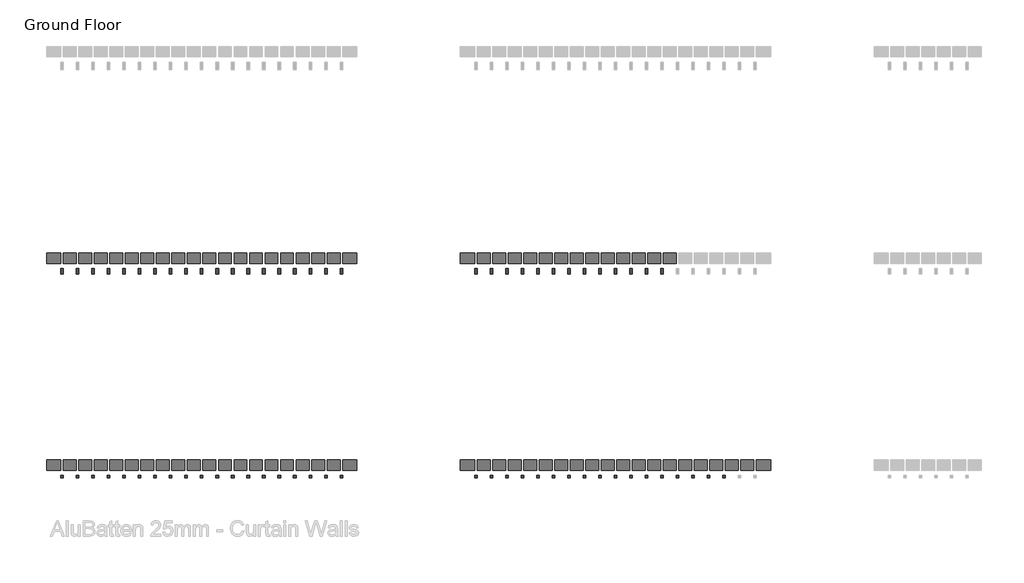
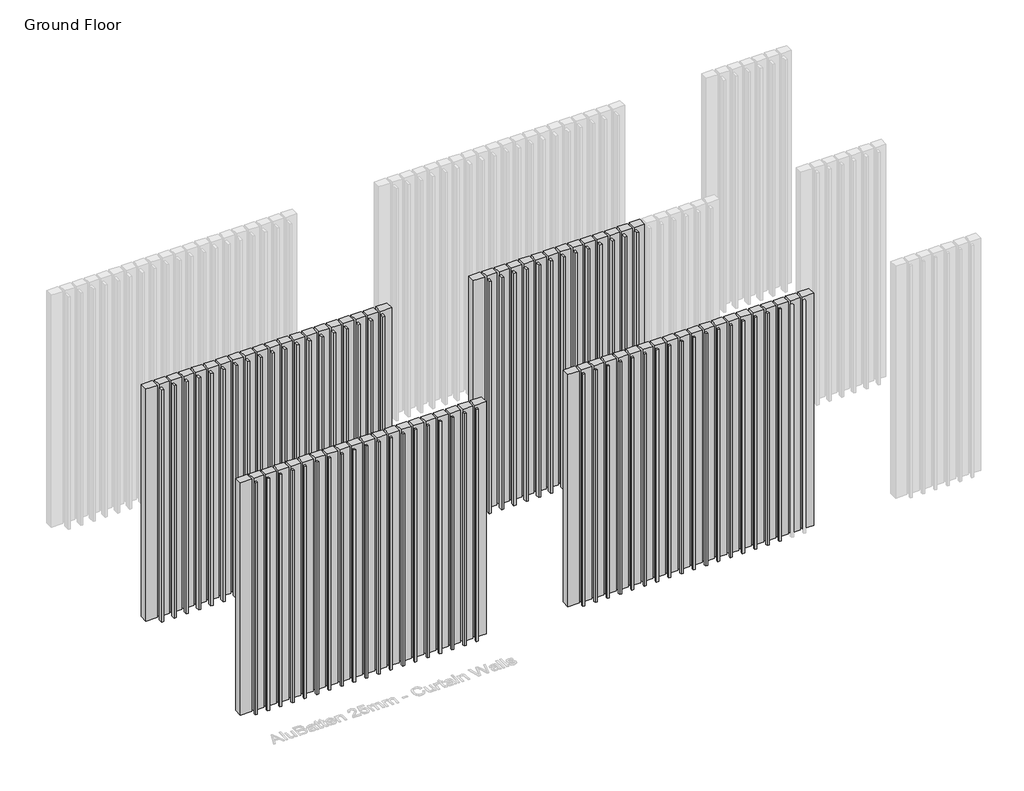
# One storey, part 1 of 350: 74 plates, 68 members.
"""IFC4 building model written with IfcOpenShell, lengths in millimetres."""

from ifc_helpers import new_model, si_unit, origin, place, context, project, spatial, transform, mapped, element, save
from components import rectangular_mullion_ec047115, rectangular_mullion_5535ef50, empty_system_panel_empty_db8e642d, empty_system_panel_empty_1b6afc67, empty_system_panel_empty_4d48d162

model = new_model("IFC4")

# Units and contexts
model_context = context("Model", 3, world=origin())
ifc_project = project(units=[si_unit("LENGTHUNIT", "METRE", prefix="MILLI")], contexts=[model_context])

# Site, building, storey
site = spatial("IfcSite", under=ifc_project)
building = spatial("IfcBuilding", under=site)
storey = spatial("IfcBuildingStorey", under=building, Name="Ground Floor", Elevation=0.0)

# Members
placement = place(None, origin())
rectangular_mullion_shape = rectangular_mullion_ec047115(model_context)
element("IfcMember", 1, ObjectType="Rectangular Mullion : Batten_Aluminium_Modinex_AluBatten_25x25_AfricanEbony", at=placement, inside=storey, context=model_context, shape_type="MappedRepresentation", body=[
    mapped(rectangular_mullion_shape, transform((2066.4361642, 4968.2978302, 0.0), x_axis=(1.0, 0.0, 0.0), y_axis=(0.0, -1.0, 0.0), z_axis=(0.0, 0.0, -1.0))),
])
element("IfcMember", 2, ObjectType="Rectangular Mullion : Batten_Aluminium_Modinex_AluBatten_25x25_AfricanEbony", at=placement, inside=storey, context=model_context, shape_type="MappedRepresentation", body=[
    mapped(rectangular_mullion_shape, transform((2216.4361642, 4968.2978302, 0.0), x_axis=(1.0, 0.0, 0.0), y_axis=(0.0, -1.0, 0.0), z_axis=(0.0, 0.0, -1.0))),
])
element("IfcMember", 3, ObjectType="Rectangular Mullion : Batten_Aluminium_Modinex_AluBatten_25x25_AfricanEbony", at=placement, inside=storey, context=model_context, shape_type="MappedRepresentation", body=[
    mapped(rectangular_mullion_shape, transform((2366.4361642, 4968.2978302, 0.0), x_axis=(1.0, 0.0, 0.0), y_axis=(0.0, -1.0, 0.0), z_axis=(0.0, 0.0, -1.0))),
])
element("IfcMember", 4, ObjectType="Rectangular Mullion : Batten_Aluminium_Modinex_AluBatten_25x25_AfricanEbony", at=placement, inside=storey, context=model_context, shape_type="MappedRepresentation", body=[
    mapped(rectangular_mullion_shape, transform((2516.4361642, 4968.2978302, 0.0), x_axis=(1.0, 0.0, 0.0), y_axis=(0.0, -1.0, 0.0), z_axis=(0.0, 0.0, -1.0))),
])
element("IfcMember", 5, ObjectType="Rectangular Mullion : Batten_Aluminium_Modinex_AluBatten_25x25_AfricanEbony", at=placement, inside=storey, context=model_context, shape_type="MappedRepresentation", body=[
    mapped(rectangular_mullion_shape, transform((2666.4361642, 4968.2978302, 0.0), x_axis=(1.0, 0.0, 0.0), y_axis=(0.0, -1.0, 0.0), z_axis=(0.0, 0.0, -1.0))),
])
element("IfcMember", 6, ObjectType="Rectangular Mullion : Batten_Aluminium_Modinex_AluBatten_25x25_AfricanEbony", at=placement, inside=storey, context=model_context, shape_type="MappedRepresentation", body=[
    mapped(rectangular_mullion_shape, transform((2816.4361642, 4968.2978302, 0.0), x_axis=(1.0, 0.0, 0.0), y_axis=(0.0, -1.0, 0.0), z_axis=(0.0, 0.0, -1.0))),
])
element("IfcMember", 7, ObjectType="Rectangular Mullion : Batten_Aluminium_Modinex_AluBatten_25x25_AfricanEbony", at=placement, inside=storey, context=model_context, shape_type="MappedRepresentation", body=[
    mapped(rectangular_mullion_shape, transform((2966.4361642, 4968.2978302, 0.0), x_axis=(1.0, 0.0, 0.0), y_axis=(0.0, -1.0, 0.0), z_axis=(0.0, 0.0, -1.0))),
])
element("IfcMember", 8, ObjectType="Rectangular Mullion : Batten_Aluminium_Modinex_AluBatten_25x25_AfricanEbony", at=placement, inside=storey, context=model_context, shape_type="MappedRepresentation", body=[
    mapped(rectangular_mullion_shape, transform((3116.4361642, 4968.2978302, 0.0), x_axis=(1.0, 0.0, 0.0), y_axis=(0.0, -1.0, 0.0), z_axis=(0.0, 0.0, -1.0))),
])
element("IfcMember", 9, ObjectType="Rectangular Mullion : Batten_Aluminium_Modinex_AluBatten_25x25_AfricanEbony", at=placement, inside=storey, context=model_context, shape_type="MappedRepresentation", body=[
    mapped(rectangular_mullion_shape, transform((3266.4361642, 4968.2978302, 0.0), x_axis=(1.0, 0.0, 0.0), y_axis=(0.0, -1.0, 0.0), z_axis=(0.0, 0.0, -1.0))),
])
element("IfcMember", 10, ObjectType="Rectangular Mullion : Batten_Aluminium_Modinex_AluBatten_25x25_AfricanEbony", at=placement, inside=storey, context=model_context, shape_type="MappedRepresentation", body=[
    mapped(rectangular_mullion_shape, transform((3416.4361642, 4968.2978302, 0.0), x_axis=(1.0, 0.0, 0.0), y_axis=(0.0, -1.0, 0.0), z_axis=(0.0, 0.0, -1.0))),
])
element("IfcMember", 11, ObjectType="Rectangular Mullion : Batten_Aluminium_Modinex_AluBatten_25x25_AfricanEbony", at=placement, inside=storey, context=model_context, shape_type="MappedRepresentation", body=[
    mapped(rectangular_mullion_shape, transform((3566.4361642, 4968.2978302, 0.0), x_axis=(1.0, 0.0, 0.0), y_axis=(0.0, -1.0, 0.0), z_axis=(0.0, 0.0, -1.0))),
])
element("IfcMember", 12, ObjectType="Rectangular Mullion : Batten_Aluminium_Modinex_AluBatten_25x25_AfricanEbony", at=placement, inside=storey, context=model_context, shape_type="MappedRepresentation", body=[
    mapped(rectangular_mullion_shape, transform((3716.4361642, 4968.2978302, 0.0), x_axis=(1.0, 0.0, 0.0), y_axis=(0.0, -1.0, 0.0), z_axis=(0.0, 0.0, -1.0))),
])
element("IfcMember", 13, ObjectType="Rectangular Mullion : Batten_Aluminium_Modinex_AluBatten_25x25_AfricanEbony", at=placement, inside=storey, context=model_context, shape_type="MappedRepresentation", body=[
    mapped(rectangular_mullion_shape, transform((3866.4361642, 4968.2978302, 0.0), x_axis=(1.0, 0.0, 0.0), y_axis=(0.0, -1.0, 0.0), z_axis=(0.0, 0.0, -1.0))),
])
element("IfcMember", 14, ObjectType="Rectangular Mullion : Batten_Aluminium_Modinex_AluBatten_25x25_AfricanEbony", at=placement, inside=storey, context=model_context, shape_type="MappedRepresentation", body=[
    mapped(rectangular_mullion_shape, transform((4016.4361642, 4968.2978302, 0.0), x_axis=(1.0, 0.0, 0.0), y_axis=(0.0, -1.0, 0.0), z_axis=(0.0, 0.0, -1.0))),
])
element("IfcMember", 15, ObjectType="Rectangular Mullion : Batten_Aluminium_Modinex_AluBatten_25x25_AfricanEbony", at=placement, inside=storey, context=model_context, shape_type="MappedRepresentation", body=[
    mapped(rectangular_mullion_shape, transform((4166.4361642, 4968.2978302, 0.0), x_axis=(1.0, 0.0, 0.0), y_axis=(0.0, -1.0, 0.0), z_axis=(0.0, 0.0, -1.0))),
])
element("IfcMember", 16, ObjectType="Rectangular Mullion : Batten_Aluminium_Modinex_AluBatten_25x25_AfricanEbony", at=placement, inside=storey, context=model_context, shape_type="MappedRepresentation", body=[
    mapped(rectangular_mullion_shape, transform((4316.4361642, 4968.2978302, 0.0), x_axis=(1.0, 0.0, 0.0), y_axis=(0.0, -1.0, 0.0), z_axis=(0.0, 0.0, -1.0))),
])
element("IfcMember", 17, ObjectType="Rectangular Mullion : Batten_Aluminium_Modinex_AluBatten_25x25_AfricanEbony", at=placement, inside=storey, context=model_context, shape_type="MappedRepresentation", body=[
    mapped(rectangular_mullion_shape, transform((4466.4361642, 4968.2978302, 0.0), x_axis=(1.0, 0.0, 0.0), y_axis=(0.0, -1.0, 0.0), z_axis=(0.0, 0.0, -1.0))),
])
element("IfcMember", 18, ObjectType="Rectangular Mullion : Batten_Aluminium_Modinex_AluBatten_25x25_AfricanEbony", at=placement, inside=storey, context=model_context, shape_type="MappedRepresentation", body=[
    mapped(rectangular_mullion_shape, transform((4616.4361642, 4968.2978302, 0.0), x_axis=(1.0, 0.0, 0.0), y_axis=(0.0, -1.0, 0.0), z_axis=(0.0, 0.0, -1.0))),
])
element("IfcMember", 19, ObjectType="Rectangular Mullion : Batten_Aluminium_Modinex_AluBatten_25x25_AfricanEbony", at=placement, inside=storey, context=model_context, shape_type="MappedRepresentation", body=[
    mapped(rectangular_mullion_shape, transform((4766.4361642, 4968.2978302, 0.0), x_axis=(1.0, 0.0, 0.0), y_axis=(0.0, -1.0, 0.0), z_axis=(0.0, 0.0, -1.0))),
])
rectangular_mullion_2_shape = rectangular_mullion_5535ef50(model_context)
element("IfcMember", 20, ObjectType="Rectangular Mullion : Batten_Aluminium_Modinex_AluBatten_25x50_Cedar", at=placement, inside=storey, context=model_context, shape_type="MappedRepresentation", body=[
    mapped(rectangular_mullion_2_shape, transform((6066.4361642, 6968.2978302, 0.0), x_axis=(1.0, 0.0, 0.0), y_axis=(0.0, -1.0, 0.0), z_axis=(0.0, 0.0, -1.0))),
])
element("IfcMember", 21, ObjectType="Rectangular Mullion : Batten_Aluminium_Modinex_AluBatten_25x50_Cedar", at=placement, inside=storey, context=model_context, shape_type="MappedRepresentation", body=[
    mapped(rectangular_mullion_2_shape, transform((6216.4361642, 6968.2978302, 0.0), x_axis=(1.0, 0.0, 0.0), y_axis=(0.0, -1.0, 0.0), z_axis=(0.0, 0.0, -1.0))),
])
element("IfcMember", 22, ObjectType="Rectangular Mullion : Batten_Aluminium_Modinex_AluBatten_25x50_Cedar", at=placement, inside=storey, context=model_context, shape_type="MappedRepresentation", body=[
    mapped(rectangular_mullion_2_shape, transform((6366.4361642, 6968.2978302, 0.0), x_axis=(1.0, 0.0, 0.0), y_axis=(0.0, -1.0, 0.0), z_axis=(0.0, 0.0, -1.0))),
])
element("IfcMember", 23, ObjectType="Rectangular Mullion : Batten_Aluminium_Modinex_AluBatten_25x50_Cedar", at=placement, inside=storey, context=model_context, shape_type="MappedRepresentation", body=[
    mapped(rectangular_mullion_2_shape, transform((6516.4361642, 6968.2978302, 0.0), x_axis=(1.0, 0.0, 0.0), y_axis=(0.0, -1.0, 0.0), z_axis=(0.0, 0.0, -1.0))),
])
element("IfcMember", 24, ObjectType="Rectangular Mullion : Batten_Aluminium_Modinex_AluBatten_25x50_Cedar", at=placement, inside=storey, context=model_context, shape_type="MappedRepresentation", body=[
    mapped(rectangular_mullion_2_shape, transform((6666.4361642, 6968.2978302, 0.0), x_axis=(1.0, 0.0, 0.0), y_axis=(0.0, -1.0, 0.0), z_axis=(0.0, 0.0, -1.0))),
])
element("IfcMember", 25, ObjectType="Rectangular Mullion : Batten_Aluminium_Modinex_AluBatten_25x50_Cedar", at=placement, inside=storey, context=model_context, shape_type="MappedRepresentation", body=[
    mapped(rectangular_mullion_2_shape, transform((6816.4361642, 6968.2978302, 0.0), x_axis=(1.0, 0.0, 0.0), y_axis=(0.0, -1.0, 0.0), z_axis=(0.0, 0.0, -1.0))),
])
element("IfcMember", 26, ObjectType="Rectangular Mullion : Batten_Aluminium_Modinex_AluBatten_25x50_Cedar", at=placement, inside=storey, context=model_context, shape_type="MappedRepresentation", body=[
    mapped(rectangular_mullion_2_shape, transform((6966.4361642, 6968.2978302, 0.0), x_axis=(1.0, 0.0, 0.0), y_axis=(0.0, -1.0, 0.0), z_axis=(0.0, 0.0, -1.0))),
])
element("IfcMember", 27, ObjectType="Rectangular Mullion : Batten_Aluminium_Modinex_AluBatten_25x50_Cedar", at=placement, inside=storey, context=model_context, shape_type="MappedRepresentation", body=[
    mapped(rectangular_mullion_2_shape, transform((7116.4361642, 6968.2978302, 0.0), x_axis=(1.0, 0.0, 0.0), y_axis=(0.0, -1.0, 0.0), z_axis=(0.0, 0.0, -1.0))),
])
element("IfcMember", 28, ObjectType="Rectangular Mullion : Batten_Aluminium_Modinex_AluBatten_25x50_Cedar", at=placement, inside=storey, context=model_context, shape_type="MappedRepresentation", body=[
    mapped(rectangular_mullion_2_shape, transform((7266.4361642, 6968.2978302, 0.0), x_axis=(1.0, 0.0, 0.0), y_axis=(0.0, -1.0, 0.0), z_axis=(0.0, 0.0, -1.0))),
])
element("IfcMember", 29, ObjectType="Rectangular Mullion : Batten_Aluminium_Modinex_AluBatten_25x50_Cedar", at=placement, inside=storey, context=model_context, shape_type="MappedRepresentation", body=[
    mapped(rectangular_mullion_2_shape, transform((7416.4361642, 6968.2978302, 0.0), x_axis=(1.0, 0.0, 0.0), y_axis=(0.0, -1.0, 0.0), z_axis=(0.0, 0.0, -1.0))),
])
element("IfcMember", 30, ObjectType="Rectangular Mullion : Batten_Aluminium_Modinex_AluBatten_25x50_Cedar", at=placement, inside=storey, context=model_context, shape_type="MappedRepresentation", body=[
    mapped(rectangular_mullion_2_shape, transform((7566.4361642, 6968.2978302, 0.0), x_axis=(1.0, 0.0, 0.0), y_axis=(0.0, -1.0, 0.0), z_axis=(0.0, 0.0, -1.0))),
])
element("IfcMember", 31, ObjectType="Rectangular Mullion : Batten_Aluminium_Modinex_AluBatten_25x50_Cedar", at=placement, inside=storey, context=model_context, shape_type="MappedRepresentation", body=[
    mapped(rectangular_mullion_2_shape, transform((7716.4361642, 6968.2978302, 0.0), x_axis=(1.0, 0.0, 0.0), y_axis=(0.0, -1.0, 0.0), z_axis=(0.0, 0.0, -1.0))),
])
element("IfcMember", 32, ObjectType="Rectangular Mullion : Batten_Aluminium_Modinex_AluBatten_25x50_Cedar", at=placement, inside=storey, context=model_context, shape_type="MappedRepresentation", body=[
    mapped(rectangular_mullion_2_shape, transform((7866.4361642, 6968.2978302, 0.0), x_axis=(1.0, 0.0, 0.0), y_axis=(0.0, -1.0, 0.0), z_axis=(0.0, 0.0, -1.0))),
])
element("IfcMember", 33, ObjectType="Rectangular Mullion : Batten_Aluminium_Modinex_AluBatten_25x25_Cedar", at=placement, inside=storey, context=model_context, shape_type="MappedRepresentation", body=[
    mapped(rectangular_mullion_shape, transform((6066.4361642, 4968.2978302, 0.0), x_axis=(1.0, 0.0, 0.0), y_axis=(0.0, -1.0, 0.0), z_axis=(0.0, 0.0, -1.0))),
])
element("IfcMember", 34, ObjectType="Rectangular Mullion : Batten_Aluminium_Modinex_AluBatten_25x25_Cedar", at=placement, inside=storey, context=model_context, shape_type="MappedRepresentation", body=[
    mapped(rectangular_mullion_shape, transform((6216.4361642, 4968.2978302, 0.0), x_axis=(1.0, 0.0, 0.0), y_axis=(0.0, -1.0, 0.0), z_axis=(0.0, 0.0, -1.0))),
])
element("IfcMember", 35, ObjectType="Rectangular Mullion : Batten_Aluminium_Modinex_AluBatten_25x25_Cedar", at=placement, inside=storey, context=model_context, shape_type="MappedRepresentation", body=[
    mapped(rectangular_mullion_shape, transform((6366.4361642, 4968.2978302, 0.0), x_axis=(1.0, 0.0, 0.0), y_axis=(0.0, -1.0, 0.0), z_axis=(0.0, 0.0, -1.0))),
])
element("IfcMember", 36, ObjectType="Rectangular Mullion : Batten_Aluminium_Modinex_AluBatten_25x25_Cedar", at=placement, inside=storey, context=model_context, shape_type="MappedRepresentation", body=[
    mapped(rectangular_mullion_shape, transform((6516.4361642, 4968.2978302, 0.0), x_axis=(1.0, 0.0, 0.0), y_axis=(0.0, -1.0, 0.0), z_axis=(0.0, 0.0, -1.0))),
])
element("IfcMember", 37, ObjectType="Rectangular Mullion : Batten_Aluminium_Modinex_AluBatten_25x25_Cedar", at=placement, inside=storey, context=model_context, shape_type="MappedRepresentation", body=[
    mapped(rectangular_mullion_shape, transform((6666.4361642, 4968.2978302, 0.0), x_axis=(1.0, 0.0, 0.0), y_axis=(0.0, -1.0, 0.0), z_axis=(0.0, 0.0, -1.0))),
])
element("IfcMember", 38, ObjectType="Rectangular Mullion : Batten_Aluminium_Modinex_AluBatten_25x25_Cedar", at=placement, inside=storey, context=model_context, shape_type="MappedRepresentation", body=[
    mapped(rectangular_mullion_shape, transform((6816.4361642, 4968.2978302, 0.0), x_axis=(1.0, 0.0, 0.0), y_axis=(0.0, -1.0, 0.0), z_axis=(0.0, 0.0, -1.0))),
])
element("IfcMember", 39, ObjectType="Rectangular Mullion : Batten_Aluminium_Modinex_AluBatten_25x25_Cedar", at=placement, inside=storey, context=model_context, shape_type="MappedRepresentation", body=[
    mapped(rectangular_mullion_shape, transform((6966.4361642, 4968.2978302, 0.0), x_axis=(1.0, 0.0, 0.0), y_axis=(0.0, -1.0, 0.0), z_axis=(0.0, 0.0, -1.0))),
])
element("IfcMember", 40, ObjectType="Rectangular Mullion : Batten_Aluminium_Modinex_AluBatten_25x25_Cedar", at=placement, inside=storey, context=model_context, shape_type="MappedRepresentation", body=[
    mapped(rectangular_mullion_shape, transform((7116.4361642, 4968.2978302, 0.0), x_axis=(1.0, 0.0, 0.0), y_axis=(0.0, -1.0, 0.0), z_axis=(0.0, 0.0, -1.0))),
])
element("IfcMember", 41, ObjectType="Rectangular Mullion : Batten_Aluminium_Modinex_AluBatten_25x25_Cedar", at=placement, inside=storey, context=model_context, shape_type="MappedRepresentation", body=[
    mapped(rectangular_mullion_shape, transform((7266.4361642, 4968.2978302, 0.0), x_axis=(1.0, 0.0, 0.0), y_axis=(0.0, -1.0, 0.0), z_axis=(0.0, 0.0, -1.0))),
])
element("IfcMember", 42, ObjectType="Rectangular Mullion : Batten_Aluminium_Modinex_AluBatten_25x25_Cedar", at=placement, inside=storey, context=model_context, shape_type="MappedRepresentation", body=[
    mapped(rectangular_mullion_shape, transform((7416.4361642, 4968.2978302, 0.0), x_axis=(1.0, 0.0, 0.0), y_axis=(0.0, -1.0, 0.0), z_axis=(0.0, 0.0, -1.0))),
])
element("IfcMember", 43, ObjectType="Rectangular Mullion : Batten_Aluminium_Modinex_AluBatten_25x25_Cedar", at=placement, inside=storey, context=model_context, shape_type="MappedRepresentation", body=[
    mapped(rectangular_mullion_shape, transform((7566.4361642, 4968.2978302, 0.0), x_axis=(1.0, 0.0, 0.0), y_axis=(0.0, -1.0, 0.0), z_axis=(0.0, 0.0, -1.0))),
])
element("IfcMember", 44, ObjectType="Rectangular Mullion : Batten_Aluminium_Modinex_AluBatten_25x25_Cedar", at=placement, inside=storey, context=model_context, shape_type="MappedRepresentation", body=[
    mapped(rectangular_mullion_shape, transform((7716.4361642, 4968.2978302, 0.0), x_axis=(1.0, 0.0, 0.0), y_axis=(0.0, -1.0, 0.0), z_axis=(0.0, 0.0, -1.0))),
])
element("IfcMember", 45, ObjectType="Rectangular Mullion : Batten_Aluminium_Modinex_AluBatten_25x25_Cedar", at=placement, inside=storey, context=model_context, shape_type="MappedRepresentation", body=[
    mapped(rectangular_mullion_shape, transform((7866.4361642, 4968.2978302, 0.0), x_axis=(1.0, 0.0, 0.0), y_axis=(0.0, -1.0, 0.0), z_axis=(0.0, 0.0, -1.0))),
])
element("IfcMember", 46, ObjectType="Rectangular Mullion : Batten_Aluminium_Modinex_AluBatten_25x25_Cedar", at=placement, inside=storey, context=model_context, shape_type="MappedRepresentation", body=[
    mapped(rectangular_mullion_shape, transform((8016.4361642, 4968.2978302, 0.0), x_axis=(1.0, 0.0, 0.0), y_axis=(0.0, -1.0, 0.0), z_axis=(0.0, 0.0, -1.0))),
])
element("IfcMember", 47, ObjectType="Rectangular Mullion : Batten_Aluminium_Modinex_AluBatten_25x25_Cedar", at=placement, inside=storey, context=model_context, shape_type="MappedRepresentation", body=[
    mapped(rectangular_mullion_shape, transform((8166.4361642, 4968.2978302, 0.0), x_axis=(1.0, 0.0, 0.0), y_axis=(0.0, -1.0, 0.0), z_axis=(0.0, 0.0, -1.0))),
])
element("IfcMember", 48, ObjectType="Rectangular Mullion : Batten_Aluminium_Modinex_AluBatten_25x25_Cedar", at=placement, inside=storey, context=model_context, shape_type="MappedRepresentation", body=[
    mapped(rectangular_mullion_shape, transform((8316.4361642, 4968.2978302, 0.0), x_axis=(1.0, 0.0, 0.0), y_axis=(0.0, -1.0, 0.0), z_axis=(0.0, 0.0, -1.0))),
])
element("IfcMember", 49, ObjectType="Rectangular Mullion : Batten_Aluminium_Modinex_AluBatten_25x25_Cedar", at=placement, inside=storey, context=model_context, shape_type="MappedRepresentation", body=[
    mapped(rectangular_mullion_shape, transform((8466.4361642, 4968.2978302, 0.0), x_axis=(1.0, 0.0, 0.0), y_axis=(0.0, -1.0, 0.0), z_axis=(0.0, 0.0, -1.0))),
])
element("IfcMember", 50, ObjectType="Rectangular Mullion : Batten_Aluminium_Modinex_AluBatten_25x50_AfricanEbony", at=placement, inside=storey, context=model_context, shape_type="MappedRepresentation", body=[
    mapped(rectangular_mullion_2_shape, transform((2066.4361642, 6968.2978302, 0.0), x_axis=(1.0, 0.0, 0.0), y_axis=(0.0, -1.0, 0.0), z_axis=(0.0, 0.0, -1.0))),
])
element("IfcMember", 51, ObjectType="Rectangular Mullion : Batten_Aluminium_Modinex_AluBatten_25x50_AfricanEbony", at=placement, inside=storey, context=model_context, shape_type="MappedRepresentation", body=[
    mapped(rectangular_mullion_2_shape, transform((2216.4361642, 6968.2978302, 0.0), x_axis=(1.0, 0.0, 0.0), y_axis=(0.0, -1.0, 0.0), z_axis=(0.0, 0.0, -1.0))),
])
element("IfcMember", 52, ObjectType="Rectangular Mullion : Batten_Aluminium_Modinex_AluBatten_25x50_AfricanEbony", at=placement, inside=storey, context=model_context, shape_type="MappedRepresentation", body=[
    mapped(rectangular_mullion_2_shape, transform((2366.4361642, 6968.2978302, 0.0), x_axis=(1.0, 0.0, 0.0), y_axis=(0.0, -1.0, 0.0), z_axis=(0.0, 0.0, -1.0))),
])
element("IfcMember", 53, ObjectType="Rectangular Mullion : Batten_Aluminium_Modinex_AluBatten_25x50_AfricanEbony", at=placement, inside=storey, context=model_context, shape_type="MappedRepresentation", body=[
    mapped(rectangular_mullion_2_shape, transform((2516.4361642, 6968.2978302, 0.0), x_axis=(1.0, 0.0, 0.0), y_axis=(0.0, -1.0, 0.0), z_axis=(0.0, 0.0, -1.0))),
])
element("IfcMember", 54, ObjectType="Rectangular Mullion : Batten_Aluminium_Modinex_AluBatten_25x50_AfricanEbony", at=placement, inside=storey, context=model_context, shape_type="MappedRepresentation", body=[
    mapped(rectangular_mullion_2_shape, transform((2666.4361642, 6968.2978302, 0.0), x_axis=(1.0, 0.0, 0.0), y_axis=(0.0, -1.0, 0.0), z_axis=(0.0, 0.0, -1.0))),
])
element("IfcMember", 55, ObjectType="Rectangular Mullion : Batten_Aluminium_Modinex_AluBatten_25x50_AfricanEbony", at=placement, inside=storey, context=model_context, shape_type="MappedRepresentation", body=[
    mapped(rectangular_mullion_2_shape, transform((2816.4361642, 6968.2978302, 0.0), x_axis=(1.0, 0.0, 0.0), y_axis=(0.0, -1.0, 0.0), z_axis=(0.0, 0.0, -1.0))),
])
element("IfcMember", 56, ObjectType="Rectangular Mullion : Batten_Aluminium_Modinex_AluBatten_25x50_AfricanEbony", at=placement, inside=storey, context=model_context, shape_type="MappedRepresentation", body=[
    mapped(rectangular_mullion_2_shape, transform((2966.4361642, 6968.2978302, 0.0), x_axis=(1.0, 0.0, 0.0), y_axis=(0.0, -1.0, 0.0), z_axis=(0.0, 0.0, -1.0))),
])
element("IfcMember", 57, ObjectType="Rectangular Mullion : Batten_Aluminium_Modinex_AluBatten_25x50_AfricanEbony", at=placement, inside=storey, context=model_context, shape_type="MappedRepresentation", body=[
    mapped(rectangular_mullion_2_shape, transform((3116.4361642, 6968.2978302, 0.0), x_axis=(1.0, 0.0, 0.0), y_axis=(0.0, -1.0, 0.0), z_axis=(0.0, 0.0, -1.0))),
])
element("IfcMember", 58, ObjectType="Rectangular Mullion : Batten_Aluminium_Modinex_AluBatten_25x50_AfricanEbony", at=placement, inside=storey, context=model_context, shape_type="MappedRepresentation", body=[
    mapped(rectangular_mullion_2_shape, transform((3266.4361642, 6968.2978302, 0.0), x_axis=(1.0, 0.0, 0.0), y_axis=(0.0, -1.0, 0.0), z_axis=(0.0, 0.0, -1.0))),
])
element("IfcMember", 59, ObjectType="Rectangular Mullion : Batten_Aluminium_Modinex_AluBatten_25x50_AfricanEbony", at=placement, inside=storey, context=model_context, shape_type="MappedRepresentation", body=[
    mapped(rectangular_mullion_2_shape, transform((3416.4361642, 6968.2978302, 0.0), x_axis=(1.0, 0.0, 0.0), y_axis=(0.0, -1.0, 0.0), z_axis=(0.0, 0.0, -1.0))),
])
element("IfcMember", 60, ObjectType="Rectangular Mullion : Batten_Aluminium_Modinex_AluBatten_25x50_AfricanEbony", at=placement, inside=storey, context=model_context, shape_type="MappedRepresentation", body=[
    mapped(rectangular_mullion_2_shape, transform((3566.4361642, 6968.2978302, 0.0), x_axis=(1.0, 0.0, 0.0), y_axis=(0.0, -1.0, 0.0), z_axis=(0.0, 0.0, -1.0))),
])
element("IfcMember", 61, ObjectType="Rectangular Mullion : Batten_Aluminium_Modinex_AluBatten_25x50_AfricanEbony", at=placement, inside=storey, context=model_context, shape_type="MappedRepresentation", body=[
    mapped(rectangular_mullion_2_shape, transform((3716.4361642, 6968.2978302, 0.0), x_axis=(1.0, 0.0, 0.0), y_axis=(0.0, -1.0, 0.0), z_axis=(0.0, 0.0, -1.0))),
])
element("IfcMember", 62, ObjectType="Rectangular Mullion : Batten_Aluminium_Modinex_AluBatten_25x50_AfricanEbony", at=placement, inside=storey, context=model_context, shape_type="MappedRepresentation", body=[
    mapped(rectangular_mullion_2_shape, transform((3866.4361642, 6968.2978302, 0.0), x_axis=(1.0, 0.0, 0.0), y_axis=(0.0, -1.0, 0.0), z_axis=(0.0, 0.0, -1.0))),
])
element("IfcMember", 63, ObjectType="Rectangular Mullion : Batten_Aluminium_Modinex_AluBatten_25x50_AfricanEbony", at=placement, inside=storey, context=model_context, shape_type="MappedRepresentation", body=[
    mapped(rectangular_mullion_2_shape, transform((4016.4361642, 6968.2978302, 0.0), x_axis=(1.0, 0.0, 0.0), y_axis=(0.0, -1.0, 0.0), z_axis=(0.0, 0.0, -1.0))),
])
element("IfcMember", 64, ObjectType="Rectangular Mullion : Batten_Aluminium_Modinex_AluBatten_25x50_AfricanEbony", at=placement, inside=storey, context=model_context, shape_type="MappedRepresentation", body=[
    mapped(rectangular_mullion_2_shape, transform((4166.4361642, 6968.2978302, 0.0), x_axis=(1.0, 0.0, 0.0), y_axis=(0.0, -1.0, 0.0), z_axis=(0.0, 0.0, -1.0))),
])
element("IfcMember", 65, ObjectType="Rectangular Mullion : Batten_Aluminium_Modinex_AluBatten_25x50_AfricanEbony", at=placement, inside=storey, context=model_context, shape_type="MappedRepresentation", body=[
    mapped(rectangular_mullion_2_shape, transform((4316.4361642, 6968.2978302, 0.0), x_axis=(1.0, 0.0, 0.0), y_axis=(0.0, -1.0, 0.0), z_axis=(0.0, 0.0, -1.0))),
])
element("IfcMember", 66, ObjectType="Rectangular Mullion : Batten_Aluminium_Modinex_AluBatten_25x50_AfricanEbony", at=placement, inside=storey, context=model_context, shape_type="MappedRepresentation", body=[
    mapped(rectangular_mullion_2_shape, transform((4466.4361642, 6968.2978302, 0.0), x_axis=(1.0, 0.0, 0.0), y_axis=(0.0, -1.0, 0.0), z_axis=(0.0, 0.0, -1.0))),
])
element("IfcMember", 67, ObjectType="Rectangular Mullion : Batten_Aluminium_Modinex_AluBatten_25x50_AfricanEbony", at=placement, inside=storey, context=model_context, shape_type="MappedRepresentation", body=[
    mapped(rectangular_mullion_2_shape, transform((4616.4361642, 6968.2978302, 0.0), x_axis=(1.0, 0.0, 0.0), y_axis=(0.0, -1.0, 0.0), z_axis=(0.0, 0.0, -1.0))),
])
element("IfcMember", 68, ObjectType="Rectangular Mullion : Batten_Aluminium_Modinex_AluBatten_25x50_AfricanEbony", at=placement, inside=storey, context=model_context, shape_type="MappedRepresentation", body=[
    mapped(rectangular_mullion_2_shape, transform((4766.4361642, 6968.2978302, 0.0), x_axis=(1.0, 0.0, 0.0), y_axis=(0.0, -1.0, 0.0), z_axis=(0.0, 0.0, -1.0))),
])

# Plates
empty_system_panel_empty_shape = empty_system_panel_empty_db8e642d(model_context)
element("IfcPlate", 69, ObjectType="Empty System Panel : Empty", at=placement, inside=storey, context=model_context, shape_type="MappedRepresentation", body=[
    mapped(empty_system_panel_empty_shape, transform((1985.1861641, 4968.2978302, 0.0), x_axis=(1.0, 0.0, 0.0), y_axis=(0.0, 1.0, 0.0), z_axis=(0.0, 0.0, 1.0))),
])
element("IfcPlate", 70, ObjectType="Empty System Panel : Empty", at=placement, inside=storey, context=model_context, shape_type="MappedRepresentation", body=[
    mapped(empty_system_panel_empty_shape, transform((5985.1861641, 4968.2978302, 0.0), x_axis=(1.0, 0.0, 0.0), y_axis=(0.0, 1.0, 0.0), z_axis=(0.0, 0.0, 1.0))),
])
element("IfcPlate", 71, ObjectType="Empty System Panel : Empty", at=placement, inside=storey, context=model_context, shape_type="MappedRepresentation", body=[
    mapped(empty_system_panel_empty_shape, transform((1985.1861641, 6968.2978302, 0.0), x_axis=(1.0, 0.0, 0.0), y_axis=(0.0, 1.0, 0.0), z_axis=(0.0, 0.0, 1.0))),
])
element("IfcPlate", 72, ObjectType="Empty System Panel : Empty", at=placement, inside=storey, context=model_context, shape_type="MappedRepresentation", body=[
    mapped(empty_system_panel_empty_shape, transform((5985.1861641, 6968.2978302, 0.0), x_axis=(1.0, 0.0, 0.0), y_axis=(0.0, 1.0, 0.0), z_axis=(0.0, 0.0, 1.0))),
])
empty_system_panel_empty_2_shape = empty_system_panel_empty_1b6afc67(model_context)
element("IfcPlate", 73, ObjectType="Empty System Panel : Empty", at=placement, inside=storey, context=model_context, shape_type="MappedRepresentation", body=[
    mapped(empty_system_panel_empty_2_shape, transform((2141.4361642, 4968.2978302, 0.0), x_axis=(1.0, 0.0, 0.0), y_axis=(0.0, 1.0, 0.0), z_axis=(0.0, 0.0, 1.0))),
])
element("IfcPlate", 74, ObjectType="Empty System Panel : Empty", at=placement, inside=storey, context=model_context, shape_type="MappedRepresentation", body=[
    mapped(empty_system_panel_empty_2_shape, transform((2291.4361642, 4968.2978302, 0.0), x_axis=(1.0, 0.0, 0.0), y_axis=(0.0, 1.0, 0.0), z_axis=(0.0, 0.0, 1.0))),
])
element("IfcPlate", 75, ObjectType="Empty System Panel : Empty", at=placement, inside=storey, context=model_context, shape_type="MappedRepresentation", body=[
    mapped(empty_system_panel_empty_2_shape, transform((2441.4361642, 4968.2978302, 0.0), x_axis=(1.0, 0.0, 0.0), y_axis=(0.0, 1.0, 0.0), z_axis=(0.0, 0.0, 1.0))),
])
element("IfcPlate", 76, ObjectType="Empty System Panel : Empty", at=placement, inside=storey, context=model_context, shape_type="MappedRepresentation", body=[
    mapped(empty_system_panel_empty_2_shape, transform((2591.4361642, 4968.2978302, 0.0), x_axis=(1.0, 0.0, 0.0), y_axis=(0.0, 1.0, 0.0), z_axis=(0.0, 0.0, 1.0))),
])
element("IfcPlate", 77, ObjectType="Empty System Panel : Empty", at=placement, inside=storey, context=model_context, shape_type="MappedRepresentation", body=[
    mapped(empty_system_panel_empty_2_shape, transform((2741.4361642, 4968.2978302, 0.0), x_axis=(1.0, 0.0, 0.0), y_axis=(0.0, 1.0, 0.0), z_axis=(0.0, 0.0, 1.0))),
])
element("IfcPlate", 78, ObjectType="Empty System Panel : Empty", at=placement, inside=storey, context=model_context, shape_type="MappedRepresentation", body=[
    mapped(empty_system_panel_empty_2_shape, transform((2891.4361642, 4968.2978302, 0.0), x_axis=(1.0, 0.0, 0.0), y_axis=(0.0, 1.0, 0.0), z_axis=(0.0, 0.0, 1.0))),
])
element("IfcPlate", 79, ObjectType="Empty System Panel : Empty", at=placement, inside=storey, context=model_context, shape_type="MappedRepresentation", body=[
    mapped(empty_system_panel_empty_2_shape, transform((3041.4361642, 4968.2978302, 0.0), x_axis=(1.0, 0.0, 0.0), y_axis=(0.0, 1.0, 0.0), z_axis=(0.0, 0.0, 1.0))),
])
element("IfcPlate", 80, ObjectType="Empty System Panel : Empty", at=placement, inside=storey, context=model_context, shape_type="MappedRepresentation", body=[
    mapped(empty_system_panel_empty_2_shape, transform((3191.4361642, 4968.2978302, 0.0), x_axis=(1.0, 0.0, 0.0), y_axis=(0.0, 1.0, 0.0), z_axis=(0.0, 0.0, 1.0))),
])
element("IfcPlate", 81, ObjectType="Empty System Panel : Empty", at=placement, inside=storey, context=model_context, shape_type="MappedRepresentation", body=[
    mapped(empty_system_panel_empty_2_shape, transform((3341.4361642, 4968.2978302, 0.0), x_axis=(1.0, 0.0, 0.0), y_axis=(0.0, 1.0, 0.0), z_axis=(0.0, 0.0, 1.0))),
])
element("IfcPlate", 82, ObjectType="Empty System Panel : Empty", at=placement, inside=storey, context=model_context, shape_type="MappedRepresentation", body=[
    mapped(empty_system_panel_empty_2_shape, transform((3491.4361642, 4968.2978302, 0.0), x_axis=(1.0, 0.0, 0.0), y_axis=(0.0, 1.0, 0.0), z_axis=(0.0, 0.0, 1.0))),
])
element("IfcPlate", 83, ObjectType="Empty System Panel : Empty", at=placement, inside=storey, context=model_context, shape_type="MappedRepresentation", body=[
    mapped(empty_system_panel_empty_2_shape, transform((3641.4361642, 4968.2978302, 0.0), x_axis=(1.0, 0.0, 0.0), y_axis=(0.0, 1.0, 0.0), z_axis=(0.0, 0.0, 1.0))),
])
element("IfcPlate", 84, ObjectType="Empty System Panel : Empty", at=placement, inside=storey, context=model_context, shape_type="MappedRepresentation", body=[
    mapped(empty_system_panel_empty_2_shape, transform((3791.4361642, 4968.2978302, 0.0), x_axis=(1.0, 0.0, 0.0), y_axis=(0.0, 1.0, 0.0), z_axis=(0.0, 0.0, 1.0))),
])
element("IfcPlate", 85, ObjectType="Empty System Panel : Empty", at=placement, inside=storey, context=model_context, shape_type="MappedRepresentation", body=[
    mapped(empty_system_panel_empty_2_shape, transform((3941.4361642, 4968.2978302, 0.0), x_axis=(1.0, 0.0, 0.0), y_axis=(0.0, 1.0, 0.0), z_axis=(0.0, 0.0, 1.0))),
])
element("IfcPlate", 86, ObjectType="Empty System Panel : Empty", at=placement, inside=storey, context=model_context, shape_type="MappedRepresentation", body=[
    mapped(empty_system_panel_empty_2_shape, transform((4091.4361642, 4968.2978302, 0.0), x_axis=(1.0, 0.0, 0.0), y_axis=(0.0, 1.0, 0.0), z_axis=(0.0, 0.0, 1.0))),
])
element("IfcPlate", 87, ObjectType="Empty System Panel : Empty", at=placement, inside=storey, context=model_context, shape_type="MappedRepresentation", body=[
    mapped(empty_system_panel_empty_2_shape, transform((4241.4361642, 4968.2978302, 0.0), x_axis=(1.0, 0.0, 0.0), y_axis=(0.0, 1.0, 0.0), z_axis=(0.0, 0.0, 1.0))),
])
element("IfcPlate", 88, ObjectType="Empty System Panel : Empty", at=placement, inside=storey, context=model_context, shape_type="MappedRepresentation", body=[
    mapped(empty_system_panel_empty_2_shape, transform((4391.4361642, 4968.2978302, 0.0), x_axis=(1.0, 0.0, 0.0), y_axis=(0.0, 1.0, 0.0), z_axis=(0.0, 0.0, 1.0))),
])
element("IfcPlate", 89, ObjectType="Empty System Panel : Empty", at=placement, inside=storey, context=model_context, shape_type="MappedRepresentation", body=[
    mapped(empty_system_panel_empty_2_shape, transform((4541.4361642, 4968.2978302, 0.0), x_axis=(1.0, 0.0, 0.0), y_axis=(0.0, 1.0, 0.0), z_axis=(0.0, 0.0, 1.0))),
])
element("IfcPlate", 90, ObjectType="Empty System Panel : Empty", at=placement, inside=storey, context=model_context, shape_type="MappedRepresentation", body=[
    mapped(empty_system_panel_empty_2_shape, transform((4691.4361642, 4968.2978302, 0.0), x_axis=(1.0, 0.0, 0.0), y_axis=(0.0, 1.0, 0.0), z_axis=(0.0, 0.0, 1.0))),
])
element("IfcPlate", 91, ObjectType="Empty System Panel : Empty", at=placement, inside=storey, context=model_context, shape_type="MappedRepresentation", body=[
    mapped(empty_system_panel_empty_2_shape, transform((6141.4361642, 4968.2978302, 0.0), x_axis=(1.0, 0.0, 0.0), y_axis=(0.0, 1.0, 0.0), z_axis=(0.0, 0.0, 1.0))),
])
element("IfcPlate", 92, ObjectType="Empty System Panel : Empty", at=placement, inside=storey, context=model_context, shape_type="MappedRepresentation", body=[
    mapped(empty_system_panel_empty_2_shape, transform((6291.4361642, 4968.2978302, 0.0), x_axis=(1.0, 0.0, 0.0), y_axis=(0.0, 1.0, 0.0), z_axis=(0.0, 0.0, 1.0))),
])
element("IfcPlate", 93, ObjectType="Empty System Panel : Empty", at=placement, inside=storey, context=model_context, shape_type="MappedRepresentation", body=[
    mapped(empty_system_panel_empty_2_shape, transform((6441.4361642, 4968.2978302, 0.0), x_axis=(1.0, 0.0, 0.0), y_axis=(0.0, 1.0, 0.0), z_axis=(0.0, 0.0, 1.0))),
])
element("IfcPlate", 94, ObjectType="Empty System Panel : Empty", at=placement, inside=storey, context=model_context, shape_type="MappedRepresentation", body=[
    mapped(empty_system_panel_empty_2_shape, transform((6591.4361642, 4968.2978302, 0.0), x_axis=(1.0, 0.0, 0.0), y_axis=(0.0, 1.0, 0.0), z_axis=(0.0, 0.0, 1.0))),
])
element("IfcPlate", 95, ObjectType="Empty System Panel : Empty", at=placement, inside=storey, context=model_context, shape_type="MappedRepresentation", body=[
    mapped(empty_system_panel_empty_2_shape, transform((6741.4361642, 4968.2978302, 0.0), x_axis=(1.0, 0.0, 0.0), y_axis=(0.0, 1.0, 0.0), z_axis=(0.0, 0.0, 1.0))),
])
element("IfcPlate", 96, ObjectType="Empty System Panel : Empty", at=placement, inside=storey, context=model_context, shape_type="MappedRepresentation", body=[
    mapped(empty_system_panel_empty_2_shape, transform((6891.4361642, 4968.2978302, 0.0), x_axis=(1.0, 0.0, 0.0), y_axis=(0.0, 1.0, 0.0), z_axis=(0.0, 0.0, 1.0))),
])
element("IfcPlate", 97, ObjectType="Empty System Panel : Empty", at=placement, inside=storey, context=model_context, shape_type="MappedRepresentation", body=[
    mapped(empty_system_panel_empty_2_shape, transform((7041.4361642, 4968.2978302, 0.0), x_axis=(1.0, 0.0, 0.0), y_axis=(0.0, 1.0, 0.0), z_axis=(0.0, 0.0, 1.0))),
])
element("IfcPlate", 98, ObjectType="Empty System Panel : Empty", at=placement, inside=storey, context=model_context, shape_type="MappedRepresentation", body=[
    mapped(empty_system_panel_empty_2_shape, transform((7191.4361642, 4968.2978302, 0.0), x_axis=(1.0, 0.0, 0.0), y_axis=(0.0, 1.0, 0.0), z_axis=(0.0, 0.0, 1.0))),
])
element("IfcPlate", 99, ObjectType="Empty System Panel : Empty", at=placement, inside=storey, context=model_context, shape_type="MappedRepresentation", body=[
    mapped(empty_system_panel_empty_2_shape, transform((7341.4361642, 4968.2978302, 0.0), x_axis=(1.0, 0.0, 0.0), y_axis=(0.0, 1.0, 0.0), z_axis=(0.0, 0.0, 1.0))),
])
element("IfcPlate", 100, ObjectType="Empty System Panel : Empty", at=placement, inside=storey, context=model_context, shape_type="MappedRepresentation", body=[
    mapped(empty_system_panel_empty_2_shape, transform((7491.4361642, 4968.2978302, 0.0), x_axis=(1.0, 0.0, 0.0), y_axis=(0.0, 1.0, 0.0), z_axis=(0.0, 0.0, 1.0))),
])
element("IfcPlate", 101, ObjectType="Empty System Panel : Empty", at=placement, inside=storey, context=model_context, shape_type="MappedRepresentation", body=[
    mapped(empty_system_panel_empty_2_shape, transform((7641.4361642, 4968.2978302, 0.0), x_axis=(1.0, 0.0, 0.0), y_axis=(0.0, 1.0, 0.0), z_axis=(0.0, 0.0, 1.0))),
])
element("IfcPlate", 102, ObjectType="Empty System Panel : Empty", at=placement, inside=storey, context=model_context, shape_type="MappedRepresentation", body=[
    mapped(empty_system_panel_empty_2_shape, transform((7791.4361642, 4968.2978302, 0.0), x_axis=(1.0, 0.0, 0.0), y_axis=(0.0, 1.0, 0.0), z_axis=(0.0, 0.0, 1.0))),
])
element("IfcPlate", 103, ObjectType="Empty System Panel : Empty", at=placement, inside=storey, context=model_context, shape_type="MappedRepresentation", body=[
    mapped(empty_system_panel_empty_2_shape, transform((7941.4361642, 4968.2978302, 0.0), x_axis=(1.0, 0.0, 0.0), y_axis=(0.0, 1.0, 0.0), z_axis=(0.0, 0.0, 1.0))),
])
element("IfcPlate", 104, ObjectType="Empty System Panel : Empty", at=placement, inside=storey, context=model_context, shape_type="MappedRepresentation", body=[
    mapped(empty_system_panel_empty_2_shape, transform((8091.4361642, 4968.2978302, 0.0), x_axis=(1.0, 0.0, 0.0), y_axis=(0.0, 1.0, 0.0), z_axis=(0.0, 0.0, 1.0))),
])
element("IfcPlate", 105, ObjectType="Empty System Panel : Empty", at=placement, inside=storey, context=model_context, shape_type="MappedRepresentation", body=[
    mapped(empty_system_panel_empty_2_shape, transform((8241.4361642, 4968.2978302, 0.0), x_axis=(1.0, 0.0, 0.0), y_axis=(0.0, 1.0, 0.0), z_axis=(0.0, 0.0, 1.0))),
])
element("IfcPlate", 106, ObjectType="Empty System Panel : Empty", at=placement, inside=storey, context=model_context, shape_type="MappedRepresentation", body=[
    mapped(empty_system_panel_empty_2_shape, transform((8391.4361642, 4968.2978302, 0.0), x_axis=(1.0, 0.0, 0.0), y_axis=(0.0, 1.0, 0.0), z_axis=(0.0, 0.0, 1.0))),
])
element("IfcPlate", 107, ObjectType="Empty System Panel : Empty", at=placement, inside=storey, context=model_context, shape_type="MappedRepresentation", body=[
    mapped(empty_system_panel_empty_2_shape, transform((8541.4361642, 4968.2978302, 0.0), x_axis=(1.0, 0.0, 0.0), y_axis=(0.0, 1.0, 0.0), z_axis=(0.0, 0.0, 1.0))),
])
element("IfcPlate", 108, ObjectType="Empty System Panel : Empty", at=placement, inside=storey, context=model_context, shape_type="MappedRepresentation", body=[
    mapped(empty_system_panel_empty_2_shape, transform((8691.4361642, 4968.2978302, 0.0), x_axis=(1.0, 0.0, 0.0), y_axis=(0.0, 1.0, 0.0), z_axis=(0.0, 0.0, 1.0))),
])
element("IfcPlate", 109, ObjectType="Empty System Panel : Empty", at=placement, inside=storey, context=model_context, shape_type="MappedRepresentation", body=[
    mapped(empty_system_panel_empty_2_shape, transform((2141.4361642, 6968.2978302, 0.0), x_axis=(1.0, 0.0, 0.0), y_axis=(0.0, 1.0, 0.0), z_axis=(0.0, 0.0, 1.0))),
])
element("IfcPlate", 110, ObjectType="Empty System Panel : Empty", at=placement, inside=storey, context=model_context, shape_type="MappedRepresentation", body=[
    mapped(empty_system_panel_empty_2_shape, transform((2291.4361642, 6968.2978302, 0.0), x_axis=(1.0, 0.0, 0.0), y_axis=(0.0, 1.0, 0.0), z_axis=(0.0, 0.0, 1.0))),
])
element("IfcPlate", 111, ObjectType="Empty System Panel : Empty", at=placement, inside=storey, context=model_context, shape_type="MappedRepresentation", body=[
    mapped(empty_system_panel_empty_2_shape, transform((2441.4361642, 6968.2978302, 0.0), x_axis=(1.0, 0.0, 0.0), y_axis=(0.0, 1.0, 0.0), z_axis=(0.0, 0.0, 1.0))),
])
element("IfcPlate", 112, ObjectType="Empty System Panel : Empty", at=placement, inside=storey, context=model_context, shape_type="MappedRepresentation", body=[
    mapped(empty_system_panel_empty_2_shape, transform((2591.4361642, 6968.2978302, 0.0), x_axis=(1.0, 0.0, 0.0), y_axis=(0.0, 1.0, 0.0), z_axis=(0.0, 0.0, 1.0))),
])
element("IfcPlate", 113, ObjectType="Empty System Panel : Empty", at=placement, inside=storey, context=model_context, shape_type="MappedRepresentation", body=[
    mapped(empty_system_panel_empty_2_shape, transform((2741.4361642, 6968.2978302, 0.0), x_axis=(1.0, 0.0, 0.0), y_axis=(0.0, 1.0, 0.0), z_axis=(0.0, 0.0, 1.0))),
])
element("IfcPlate", 114, ObjectType="Empty System Panel : Empty", at=placement, inside=storey, context=model_context, shape_type="MappedRepresentation", body=[
    mapped(empty_system_panel_empty_2_shape, transform((2891.4361642, 6968.2978302, 0.0), x_axis=(1.0, 0.0, 0.0), y_axis=(0.0, 1.0, 0.0), z_axis=(0.0, 0.0, 1.0))),
])
element("IfcPlate", 115, ObjectType="Empty System Panel : Empty", at=placement, inside=storey, context=model_context, shape_type="MappedRepresentation", body=[
    mapped(empty_system_panel_empty_2_shape, transform((3041.4361642, 6968.2978302, 0.0), x_axis=(1.0, 0.0, 0.0), y_axis=(0.0, 1.0, 0.0), z_axis=(0.0, 0.0, 1.0))),
])
element("IfcPlate", 116, ObjectType="Empty System Panel : Empty", at=placement, inside=storey, context=model_context, shape_type="MappedRepresentation", body=[
    mapped(empty_system_panel_empty_2_shape, transform((3191.4361642, 6968.2978302, 0.0), x_axis=(1.0, 0.0, 0.0), y_axis=(0.0, 1.0, 0.0), z_axis=(0.0, 0.0, 1.0))),
])
element("IfcPlate", 117, ObjectType="Empty System Panel : Empty", at=placement, inside=storey, context=model_context, shape_type="MappedRepresentation", body=[
    mapped(empty_system_panel_empty_2_shape, transform((3341.4361642, 6968.2978302, 0.0), x_axis=(1.0, 0.0, 0.0), y_axis=(0.0, 1.0, 0.0), z_axis=(0.0, 0.0, 1.0))),
])
element("IfcPlate", 118, ObjectType="Empty System Panel : Empty", at=placement, inside=storey, context=model_context, shape_type="MappedRepresentation", body=[
    mapped(empty_system_panel_empty_2_shape, transform((3491.4361642, 6968.2978302, 0.0), x_axis=(1.0, 0.0, 0.0), y_axis=(0.0, 1.0, 0.0), z_axis=(0.0, 0.0, 1.0))),
])
element("IfcPlate", 119, ObjectType="Empty System Panel : Empty", at=placement, inside=storey, context=model_context, shape_type="MappedRepresentation", body=[
    mapped(empty_system_panel_empty_2_shape, transform((3641.4361642, 6968.2978302, 0.0), x_axis=(1.0, 0.0, 0.0), y_axis=(0.0, 1.0, 0.0), z_axis=(0.0, 0.0, 1.0))),
])
element("IfcPlate", 120, ObjectType="Empty System Panel : Empty", at=placement, inside=storey, context=model_context, shape_type="MappedRepresentation", body=[
    mapped(empty_system_panel_empty_2_shape, transform((3791.4361642, 6968.2978302, 0.0), x_axis=(1.0, 0.0, 0.0), y_axis=(0.0, 1.0, 0.0), z_axis=(0.0, 0.0, 1.0))),
])
element("IfcPlate", 121, ObjectType="Empty System Panel : Empty", at=placement, inside=storey, context=model_context, shape_type="MappedRepresentation", body=[
    mapped(empty_system_panel_empty_2_shape, transform((3941.4361642, 6968.2978302, 0.0), x_axis=(1.0, 0.0, 0.0), y_axis=(0.0, 1.0, 0.0), z_axis=(0.0, 0.0, 1.0))),
])
element("IfcPlate", 122, ObjectType="Empty System Panel : Empty", at=placement, inside=storey, context=model_context, shape_type="MappedRepresentation", body=[
    mapped(empty_system_panel_empty_2_shape, transform((4091.4361642, 6968.2978302, 0.0), x_axis=(1.0, 0.0, 0.0), y_axis=(0.0, 1.0, 0.0), z_axis=(0.0, 0.0, 1.0))),
])
element("IfcPlate", 123, ObjectType="Empty System Panel : Empty", at=placement, inside=storey, context=model_context, shape_type="MappedRepresentation", body=[
    mapped(empty_system_panel_empty_2_shape, transform((4241.4361642, 6968.2978302, 0.0), x_axis=(1.0, 0.0, 0.0), y_axis=(0.0, 1.0, 0.0), z_axis=(0.0, 0.0, 1.0))),
])
element("IfcPlate", 124, ObjectType="Empty System Panel : Empty", at=placement, inside=storey, context=model_context, shape_type="MappedRepresentation", body=[
    mapped(empty_system_panel_empty_2_shape, transform((4391.4361642, 6968.2978302, 0.0), x_axis=(1.0, 0.0, 0.0), y_axis=(0.0, 1.0, 0.0), z_axis=(0.0, 0.0, 1.0))),
])
element("IfcPlate", 125, ObjectType="Empty System Panel : Empty", at=placement, inside=storey, context=model_context, shape_type="MappedRepresentation", body=[
    mapped(empty_system_panel_empty_2_shape, transform((4541.4361642, 6968.2978302, 0.0), x_axis=(1.0, 0.0, 0.0), y_axis=(0.0, 1.0, 0.0), z_axis=(0.0, 0.0, 1.0))),
])
element("IfcPlate", 126, ObjectType="Empty System Panel : Empty", at=placement, inside=storey, context=model_context, shape_type="MappedRepresentation", body=[
    mapped(empty_system_panel_empty_2_shape, transform((4691.4361642, 6968.2978302, 0.0), x_axis=(1.0, 0.0, 0.0), y_axis=(0.0, 1.0, 0.0), z_axis=(0.0, 0.0, 1.0))),
])
element("IfcPlate", 127, ObjectType="Empty System Panel : Empty", at=placement, inside=storey, context=model_context, shape_type="MappedRepresentation", body=[
    mapped(empty_system_panel_empty_2_shape, transform((6141.4361642, 6968.2978302, 0.0), x_axis=(1.0, 0.0, 0.0), y_axis=(0.0, 1.0, 0.0), z_axis=(0.0, 0.0, 1.0))),
])
element("IfcPlate", 128, ObjectType="Empty System Panel : Empty", at=placement, inside=storey, context=model_context, shape_type="MappedRepresentation", body=[
    mapped(empty_system_panel_empty_2_shape, transform((6291.4361642, 6968.2978302, 0.0), x_axis=(1.0, 0.0, 0.0), y_axis=(0.0, 1.0, 0.0), z_axis=(0.0, 0.0, 1.0))),
])
element("IfcPlate", 129, ObjectType="Empty System Panel : Empty", at=placement, inside=storey, context=model_context, shape_type="MappedRepresentation", body=[
    mapped(empty_system_panel_empty_2_shape, transform((6441.4361642, 6968.2978302, 0.0), x_axis=(1.0, 0.0, 0.0), y_axis=(0.0, 1.0, 0.0), z_axis=(0.0, 0.0, 1.0))),
])
element("IfcPlate", 130, ObjectType="Empty System Panel : Empty", at=placement, inside=storey, context=model_context, shape_type="MappedRepresentation", body=[
    mapped(empty_system_panel_empty_2_shape, transform((6591.4361642, 6968.2978302, 0.0), x_axis=(1.0, 0.0, 0.0), y_axis=(0.0, 1.0, 0.0), z_axis=(0.0, 0.0, 1.0))),
])
element("IfcPlate", 131, ObjectType="Empty System Panel : Empty", at=placement, inside=storey, context=model_context, shape_type="MappedRepresentation", body=[
    mapped(empty_system_panel_empty_2_shape, transform((6741.4361642, 6968.2978302, 0.0), x_axis=(1.0, 0.0, 0.0), y_axis=(0.0, 1.0, 0.0), z_axis=(0.0, 0.0, 1.0))),
])
element("IfcPlate", 132, ObjectType="Empty System Panel : Empty", at=placement, inside=storey, context=model_context, shape_type="MappedRepresentation", body=[
    mapped(empty_system_panel_empty_2_shape, transform((6891.4361642, 6968.2978302, 0.0), x_axis=(1.0, 0.0, 0.0), y_axis=(0.0, 1.0, 0.0), z_axis=(0.0, 0.0, 1.0))),
])
element("IfcPlate", 133, ObjectType="Empty System Panel : Empty", at=placement, inside=storey, context=model_context, shape_type="MappedRepresentation", body=[
    mapped(empty_system_panel_empty_2_shape, transform((7041.4361642, 6968.2978302, 0.0), x_axis=(1.0, 0.0, 0.0), y_axis=(0.0, 1.0, 0.0), z_axis=(0.0, 0.0, 1.0))),
])
element("IfcPlate", 134, ObjectType="Empty System Panel : Empty", at=placement, inside=storey, context=model_context, shape_type="MappedRepresentation", body=[
    mapped(empty_system_panel_empty_2_shape, transform((7191.4361642, 6968.2978302, 0.0), x_axis=(1.0, 0.0, 0.0), y_axis=(0.0, 1.0, 0.0), z_axis=(0.0, 0.0, 1.0))),
])
element("IfcPlate", 135, ObjectType="Empty System Panel : Empty", at=placement, inside=storey, context=model_context, shape_type="MappedRepresentation", body=[
    mapped(empty_system_panel_empty_2_shape, transform((7341.4361642, 6968.2978302, 0.0), x_axis=(1.0, 0.0, 0.0), y_axis=(0.0, 1.0, 0.0), z_axis=(0.0, 0.0, 1.0))),
])
element("IfcPlate", 136, ObjectType="Empty System Panel : Empty", at=placement, inside=storey, context=model_context, shape_type="MappedRepresentation", body=[
    mapped(empty_system_panel_empty_2_shape, transform((7491.4361642, 6968.2978302, 0.0), x_axis=(1.0, 0.0, 0.0), y_axis=(0.0, 1.0, 0.0), z_axis=(0.0, 0.0, 1.0))),
])
element("IfcPlate", 137, ObjectType="Empty System Panel : Empty", at=placement, inside=storey, context=model_context, shape_type="MappedRepresentation", body=[
    mapped(empty_system_panel_empty_2_shape, transform((7641.4361642, 6968.2978302, 0.0), x_axis=(1.0, 0.0, 0.0), y_axis=(0.0, 1.0, 0.0), z_axis=(0.0, 0.0, 1.0))),
])
element("IfcPlate", 138, ObjectType="Empty System Panel : Empty", at=placement, inside=storey, context=model_context, shape_type="MappedRepresentation", body=[
    mapped(empty_system_panel_empty_2_shape, transform((7791.4361642, 6968.2978302, 0.0), x_axis=(1.0, 0.0, 0.0), y_axis=(0.0, 1.0, 0.0), z_axis=(0.0, 0.0, 1.0))),
])
element("IfcPlate", 139, ObjectType="Empty System Panel : Empty", at=placement, inside=storey, context=model_context, shape_type="MappedRepresentation", body=[
    mapped(empty_system_panel_empty_2_shape, transform((7941.4361642, 6968.2978302, 0.0), x_axis=(1.0, 0.0, 0.0), y_axis=(0.0, 1.0, 0.0), z_axis=(0.0, 0.0, 1.0))),
])
empty_system_panel_empty_3_shape = empty_system_panel_empty_4d48d162(model_context)
element("IfcPlate", 140, ObjectType="Empty System Panel : Empty", at=placement, inside=storey, context=model_context, shape_type="MappedRepresentation", body=[
    mapped(empty_system_panel_empty_3_shape, transform((4847.6861641, 4968.2978302, 0.0), x_axis=(1.0, 0.0, 0.0), y_axis=(0.0, 1.0, 0.0), z_axis=(0.0, 0.0, 1.0))),
])
element("IfcPlate", 141, ObjectType="Empty System Panel : Empty", at=placement, inside=storey, context=model_context, shape_type="MappedRepresentation", body=[
    mapped(empty_system_panel_empty_3_shape, transform((8847.6861641, 4968.2978302, 0.0), x_axis=(1.0, 0.0, 0.0), y_axis=(0.0, 1.0, 0.0), z_axis=(0.0, 0.0, 1.0))),
])
element("IfcPlate", 142, ObjectType="Empty System Panel : Empty", at=placement, inside=storey, context=model_context, shape_type="MappedRepresentation", body=[
    mapped(empty_system_panel_empty_3_shape, transform((4847.6861641, 6968.2978302, 0.0), x_axis=(1.0, 0.0, 0.0), y_axis=(0.0, 1.0, 0.0), z_axis=(0.0, 0.0, 1.0))),
])

save(model, "model.ifc")
